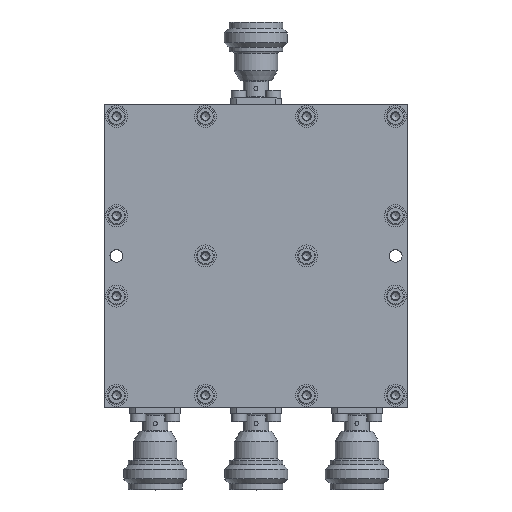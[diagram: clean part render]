
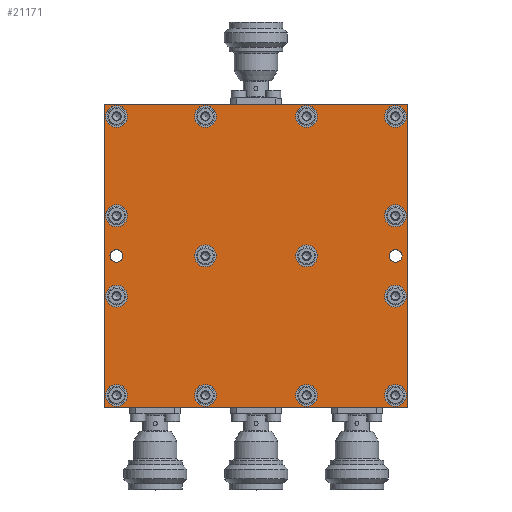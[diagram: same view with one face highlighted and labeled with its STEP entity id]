
A CAD part, top view. The second image highlights one B-rep face of the part: STEP entity #21171.
In plain terms, the highlighted planar face has unit normal (0, 0, 1).
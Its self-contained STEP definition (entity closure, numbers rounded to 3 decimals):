
#655=LINE('',#28581,#1283);
#656=LINE('',#28584,#1284);
#657=LINE('',#28586,#1285);
#658=LINE('',#28588,#1286);
#1283=VECTOR('',#24244,1000.);
#1284=VECTOR('',#24245,1000.);
#1285=VECTOR('',#24246,1000.);
#1286=VECTOR('',#24247,1000.);
#2385=ORIENTED_EDGE('',*,*,#5995,.F.);
#2386=ORIENTED_EDGE('',*,*,#5996,.F.);
#2387=ORIENTED_EDGE('',*,*,#5997,.F.);
#2388=ORIENTED_EDGE('',*,*,#5998,.F.);
#2389=ORIENTED_EDGE('',*,*,#5992,.T.);
#2390=ORIENTED_EDGE('',*,*,#5999,.T.);
#2391=ORIENTED_EDGE('',*,*,#5991,.T.);
#2392=ORIENTED_EDGE('',*,*,#5990,.T.);
#2393=ORIENTED_EDGE('',*,*,#5989,.T.);
#2394=ORIENTED_EDGE('',*,*,#5988,.T.);
#2395=ORIENTED_EDGE('',*,*,#5987,.T.);
#2396=ORIENTED_EDGE('',*,*,#5986,.T.);
#2397=ORIENTED_EDGE('',*,*,#5985,.T.);
#2398=ORIENTED_EDGE('',*,*,#5984,.T.);
#2399=ORIENTED_EDGE('',*,*,#5983,.T.);
#2400=ORIENTED_EDGE('',*,*,#5982,.T.);
#2401=ORIENTED_EDGE('',*,*,#5981,.T.);
#2402=ORIENTED_EDGE('',*,*,#5980,.T.);
#2403=ORIENTED_EDGE('',*,*,#5979,.T.);
#2404=ORIENTED_EDGE('',*,*,#5978,.T.);
#5978=EDGE_CURVE('',#7790,#7790,#9206,.T.);
#5979=EDGE_CURVE('',#7791,#7791,#9207,.T.);
#5980=EDGE_CURVE('',#7792,#7792,#9208,.T.);
#5981=EDGE_CURVE('',#7793,#7793,#9209,.T.);
#5982=EDGE_CURVE('',#7794,#7794,#9210,.T.);
#5983=EDGE_CURVE('',#7795,#7795,#9211,.T.);
#5984=EDGE_CURVE('',#7796,#7796,#9212,.T.);
#5985=EDGE_CURVE('',#7797,#7797,#9213,.T.);
#5986=EDGE_CURVE('',#7798,#7798,#9214,.T.);
#5987=EDGE_CURVE('',#7799,#7799,#9215,.T.);
#5988=EDGE_CURVE('',#7800,#7800,#9216,.T.);
#5989=EDGE_CURVE('',#7801,#7801,#9217,.T.);
#5990=EDGE_CURVE('',#7802,#7802,#9218,.T.);
#5991=EDGE_CURVE('',#7803,#7803,#9219,.T.);
#5992=EDGE_CURVE('',#7804,#7804,#9220,.T.);
#5995=EDGE_CURVE('',#7807,#7808,#655,.T.);
#5996=EDGE_CURVE('',#7809,#7807,#656,.T.);
#5997=EDGE_CURVE('',#7810,#7809,#657,.T.);
#5998=EDGE_CURVE('',#7808,#7810,#658,.T.);
#5999=EDGE_CURVE('',#7811,#7811,#9221,.T.);
#7790=VERTEX_POINT('',#28521);
#7791=VERTEX_POINT('',#28524);
#7792=VERTEX_POINT('',#28527);
#7793=VERTEX_POINT('',#28530);
#7794=VERTEX_POINT('',#28533);
#7795=VERTEX_POINT('',#28536);
#7796=VERTEX_POINT('',#28539);
#7797=VERTEX_POINT('',#28542);
#7798=VERTEX_POINT('',#28545);
#7799=VERTEX_POINT('',#28548);
#7800=VERTEX_POINT('',#28551);
#7801=VERTEX_POINT('',#28554);
#7802=VERTEX_POINT('',#28557);
#7803=VERTEX_POINT('',#28560);
#7804=VERTEX_POINT('',#28563);
#7807=VERTEX_POINT('',#28582);
#7808=VERTEX_POINT('',#28583);
#7809=VERTEX_POINT('',#28585);
#7810=VERTEX_POINT('',#28587);
#7811=VERTEX_POINT('',#28590);
#9206=CIRCLE('',#22278,2.75);
#9207=CIRCLE('',#22280,2.75);
#9208=CIRCLE('',#22282,2.75);
#9209=CIRCLE('',#22284,2.75);
#9210=CIRCLE('',#22286,2.75);
#9211=CIRCLE('',#22288,2.75);
#9212=CIRCLE('',#22290,2.75);
#9213=CIRCLE('',#22292,2.75);
#9214=CIRCLE('',#22294,2.75);
#9215=CIRCLE('',#22296,2.75);
#9216=CIRCLE('',#22298,2.75);
#9217=CIRCLE('',#22300,2.75);
#9218=CIRCLE('',#22302,2.75);
#9219=CIRCLE('',#22304,2.75);
#9220=CIRCLE('',#22306,1.6);
#9221=CIRCLE('',#22308,1.6);
#10046=EDGE_LOOP('',(#2385,#2386,#2387,#2388));
#10047=EDGE_LOOP('',(#2389));
#10048=EDGE_LOOP('',(#2390));
#10049=EDGE_LOOP('',(#2391));
#10050=EDGE_LOOP('',(#2392));
#10051=EDGE_LOOP('',(#2393));
#10052=EDGE_LOOP('',(#2394));
#10053=EDGE_LOOP('',(#2395));
#10054=EDGE_LOOP('',(#2396));
#10055=EDGE_LOOP('',(#2397));
#10056=EDGE_LOOP('',(#2398));
#10057=EDGE_LOOP('',(#2399));
#10058=EDGE_LOOP('',(#2400));
#10059=EDGE_LOOP('',(#2401));
#10060=EDGE_LOOP('',(#2402));
#10061=EDGE_LOOP('',(#2403));
#10062=EDGE_LOOP('',(#2404));
#11672=FACE_BOUND('',#10046,.T.);
#11673=FACE_BOUND('',#10047,.T.);
#11674=FACE_BOUND('',#10048,.T.);
#11675=FACE_BOUND('',#10049,.T.);
#11676=FACE_BOUND('',#10050,.T.);
#11677=FACE_BOUND('',#10051,.T.);
#11678=FACE_BOUND('',#10052,.T.);
#11679=FACE_BOUND('',#10053,.T.);
#11680=FACE_BOUND('',#10054,.T.);
#11681=FACE_BOUND('',#10055,.T.);
#11682=FACE_BOUND('',#10056,.T.);
#11683=FACE_BOUND('',#10057,.T.);
#11684=FACE_BOUND('',#10058,.T.);
#11685=FACE_BOUND('',#10059,.T.);
#11686=FACE_BOUND('',#10060,.T.);
#11687=FACE_BOUND('',#10061,.T.);
#11688=FACE_BOUND('',#10062,.T.);
#13318=PLANE('',#22307);
#21171=ADVANCED_FACE('',(#11672,#11673,#11674,#11675,#11676,#11677,#11678,
#11679,#11680,#11681,#11682,#11683,#11684,#11685,#11686,#11687,#11688),
#13318,.F.);
#22278=AXIS2_PLACEMENT_3D('',#28520,#24184,#24185);
#22280=AXIS2_PLACEMENT_3D('',#28523,#24188,#24189);
#22282=AXIS2_PLACEMENT_3D('',#28526,#24192,#24193);
#22284=AXIS2_PLACEMENT_3D('',#28529,#24196,#24197);
#22286=AXIS2_PLACEMENT_3D('',#28532,#24200,#24201);
#22288=AXIS2_PLACEMENT_3D('',#28535,#24204,#24205);
#22290=AXIS2_PLACEMENT_3D('',#28538,#24208,#24209);
#22292=AXIS2_PLACEMENT_3D('',#28541,#24212,#24213);
#22294=AXIS2_PLACEMENT_3D('',#28544,#24216,#24217);
#22296=AXIS2_PLACEMENT_3D('',#28547,#24220,#24221);
#22298=AXIS2_PLACEMENT_3D('',#28550,#24224,#24225);
#22300=AXIS2_PLACEMENT_3D('',#28553,#24228,#24229);
#22302=AXIS2_PLACEMENT_3D('',#28556,#24232,#24233);
#22304=AXIS2_PLACEMENT_3D('',#28559,#24236,#24237);
#22306=AXIS2_PLACEMENT_3D('',#28562,#24240,#24241);
#22307=AXIS2_PLACEMENT_3D('',#28580,#24242,#24243);
#22308=AXIS2_PLACEMENT_3D('',#28589,#24248,#24249);
#24184=DIRECTION('',(0.,0.,-1.));
#24185=DIRECTION('',(0.,-1.,0.));
#24188=DIRECTION('',(0.,0.,-1.));
#24189=DIRECTION('',(0.,-1.,0.));
#24192=DIRECTION('',(0.,0.,-1.));
#24193=DIRECTION('',(0.,-1.,0.));
#24196=DIRECTION('',(0.,0.,-1.));
#24197=DIRECTION('',(0.,-1.,0.));
#24200=DIRECTION('',(0.,0.,-1.));
#24201=DIRECTION('',(0.,-1.,0.));
#24204=DIRECTION('',(0.,0.,-1.));
#24205=DIRECTION('',(0.,-1.,0.));
#24208=DIRECTION('',(0.,0.,-1.));
#24209=DIRECTION('',(0.,-1.,0.));
#24212=DIRECTION('',(0.,0.,-1.));
#24213=DIRECTION('',(0.,-1.,0.));
#24216=DIRECTION('',(0.,0.,-1.));
#24217=DIRECTION('',(0.,-1.,0.));
#24220=DIRECTION('',(0.,0.,-1.));
#24221=DIRECTION('',(0.,-1.,0.));
#24224=DIRECTION('',(0.,0.,-1.));
#24225=DIRECTION('',(0.,-1.,0.));
#24228=DIRECTION('',(0.,0.,-1.));
#24229=DIRECTION('',(0.,-1.,0.));
#24232=DIRECTION('',(0.,0.,-1.));
#24233=DIRECTION('',(0.,-1.,0.));
#24236=DIRECTION('',(0.,0.,-1.));
#24237=DIRECTION('',(0.,-1.,0.));
#24240=DIRECTION('',(0.,0.,-1.));
#24241=DIRECTION('',(0.,-1.,0.));
#24242=DIRECTION('',(0.,0.,-1.));
#24243=DIRECTION('',(-1.,0.,0.));
#24244=DIRECTION('',(0.,-1.,0.));
#24245=DIRECTION('',(1.,0.,0.));
#24246=DIRECTION('',(0.,1.,0.));
#24247=DIRECTION('',(-1.,0.,0.));
#24248=DIRECTION('',(0.,0.,-1.));
#24249=DIRECTION('',(0.,-1.,0.));
#28520=CARTESIAN_POINT('',(-12.7,0.,25.4));
#28521=CARTESIAN_POINT('',(-12.7,-2.75,25.4));
#28523=CARTESIAN_POINT('',(12.7,0.,25.4));
#28524=CARTESIAN_POINT('',(12.7,-2.75,25.4));
#28526=CARTESIAN_POINT('',(12.7,35.05,25.4));
#28527=CARTESIAN_POINT('',(12.7,32.3,25.4));
#28529=CARTESIAN_POINT('',(-12.7,35.05,25.4));
#28530=CARTESIAN_POINT('',(-12.7,32.3,25.4));
#28532=CARTESIAN_POINT('',(-35.05,35.05,25.4));
#28533=CARTESIAN_POINT('',(-35.05,32.3,25.4));
#28535=CARTESIAN_POINT('',(-35.05,10.1,25.4));
#28536=CARTESIAN_POINT('',(-35.05,7.35,25.4));
#28538=CARTESIAN_POINT('',(-35.05,-10.1,25.4));
#28539=CARTESIAN_POINT('',(-35.05,-12.85,25.4));
#28541=CARTESIAN_POINT('',(-35.05,-35.05,25.4));
#28542=CARTESIAN_POINT('',(-35.05,-37.8,25.4));
#28544=CARTESIAN_POINT('',(-12.7,-35.05,25.4));
#28545=CARTESIAN_POINT('',(-12.7,-37.8,25.4));
#28547=CARTESIAN_POINT('',(12.7,-35.05,25.4));
#28548=CARTESIAN_POINT('',(12.7,-37.8,25.4));
#28550=CARTESIAN_POINT('',(35.05,-35.05,25.4));
#28551=CARTESIAN_POINT('',(35.05,-37.8,25.4));
#28553=CARTESIAN_POINT('',(35.05,-10.1,25.4));
#28554=CARTESIAN_POINT('',(35.05,-12.85,25.4));
#28556=CARTESIAN_POINT('',(35.05,10.1,25.4));
#28557=CARTESIAN_POINT('',(35.05,7.35,25.4));
#28559=CARTESIAN_POINT('',(35.05,35.05,25.4));
#28560=CARTESIAN_POINT('',(35.05,32.3,25.4));
#28562=CARTESIAN_POINT('',(-35.099,0.,25.4));
#28563=CARTESIAN_POINT('',(-35.099,-1.6,25.4));
#28580=CARTESIAN_POINT('',(0.,0.,25.4));
#28581=CARTESIAN_POINT('',(38.1,38.1,25.4));
#28582=CARTESIAN_POINT('',(38.1,38.1,25.4));
#28583=CARTESIAN_POINT('',(38.1,-38.1,25.4));
#28584=CARTESIAN_POINT('',(-38.1,38.1,25.4));
#28585=CARTESIAN_POINT('',(-38.1,38.1,25.4));
#28586=CARTESIAN_POINT('',(-38.1,-38.1,25.4));
#28587=CARTESIAN_POINT('',(-38.1,-38.1,25.4));
#28588=CARTESIAN_POINT('',(38.1,-38.1,25.4));
#28589=CARTESIAN_POINT('',(35.1,0.,25.4));
#28590=CARTESIAN_POINT('',(35.1,-1.6,25.4));
